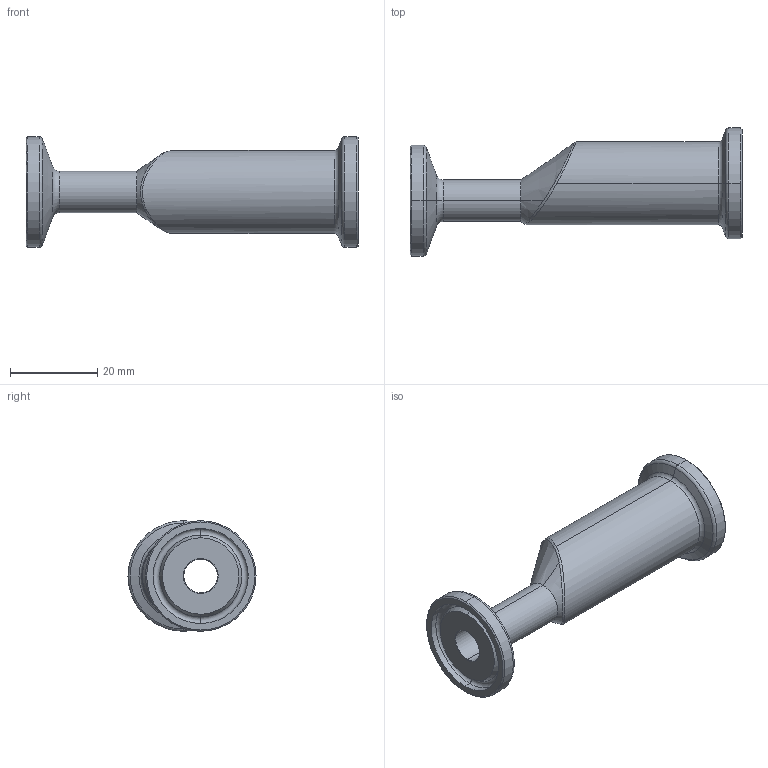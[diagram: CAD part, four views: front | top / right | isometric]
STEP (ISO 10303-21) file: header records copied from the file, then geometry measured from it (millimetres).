
FILE_DESCRIPTION (( 'STEP AP214' ), '1' );
FILE_NAME ('TEG32SCC6L.75x.375-...STEP', '2016-06-01T13:06:12', ( 'eran' ), ( '' ), 'SwSTEP 2.0', 'SolidWorks 2016', '' );
FILE_SCHEMA (( 'AUTOMOTIVE_DESIGN' ));
Length unit declared in the file: millimetre
Products named in the file (1): TEG32SCC6L.75x.375-..
Bounding box: 76.2 x 29.4 x 25.4 mm (x, y, z)
Volume: 11737.4 mm3; surface area: 7804.8 mm2
Topology: 1 solids, 1 shells, 64 faces, 137 edges, 77 vertices
Faces by surface type: cone 22, cylinder 19, torus 17, plane 4, bspline 2
Entity records: 2324 total; most frequent: CARTESIAN_POINT 900, DIRECTION 320, ORIENTED_EDGE 274, AXIS2_PLACEMENT_3D 141, EDGE_CURVE 137, CIRCLE 78, VERTEX_POINT 77, EDGE_LOOP 68
